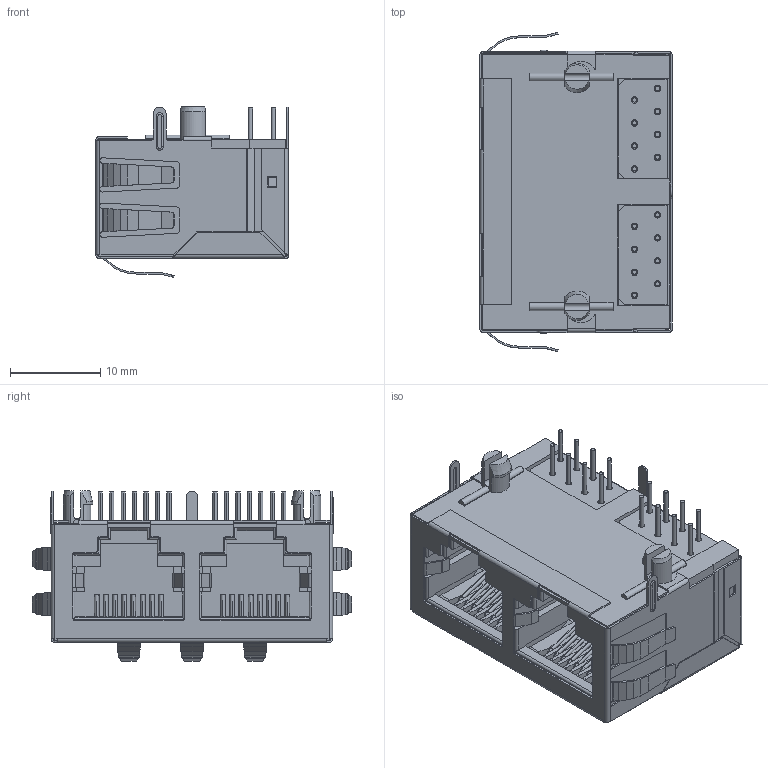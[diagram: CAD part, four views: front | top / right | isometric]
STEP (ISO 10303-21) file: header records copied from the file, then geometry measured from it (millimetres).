
FILE_DESCRIPTION((''),'2;1');
FILE_NAME('DGKYD59211288HWA1D5Y1006','2023-06-01T13:48:33',('Administrator'),(''),'CREO PARAMETRIC BY PTC INC, 2019010','CREO PARAMETRIC BY PTC INC, 2019010','');
FILE_SCHEMA(('CONFIG_CONTROL_DESIGN'));
Products named in the file (1): DGKYD59211288HWA1D5Y1006
Bounding box: 21.27 x 35.28 x 18.88 mm (x, y, z)
Volume: 4828.5 mm3; surface area: 11799.4 mm2
Topology: 15 solids, 18 shells, 1676 faces, 4230 edges, 2538 vertices
Faces by surface type: plane 895, cylinder 473, bspline 158, cone 68, torus 68, extrusion 14
Entity records: 55526 total; most frequent: CARTESIAN_POINT 16375, ORIENTED_EDGE 8428, DIRECTION 7572, EDGE_CURVE 4230, VECTOR 2950, LINE 2936, VERTEX_POINT 2542, AXIS2_PLACEMENT_3D 2311
